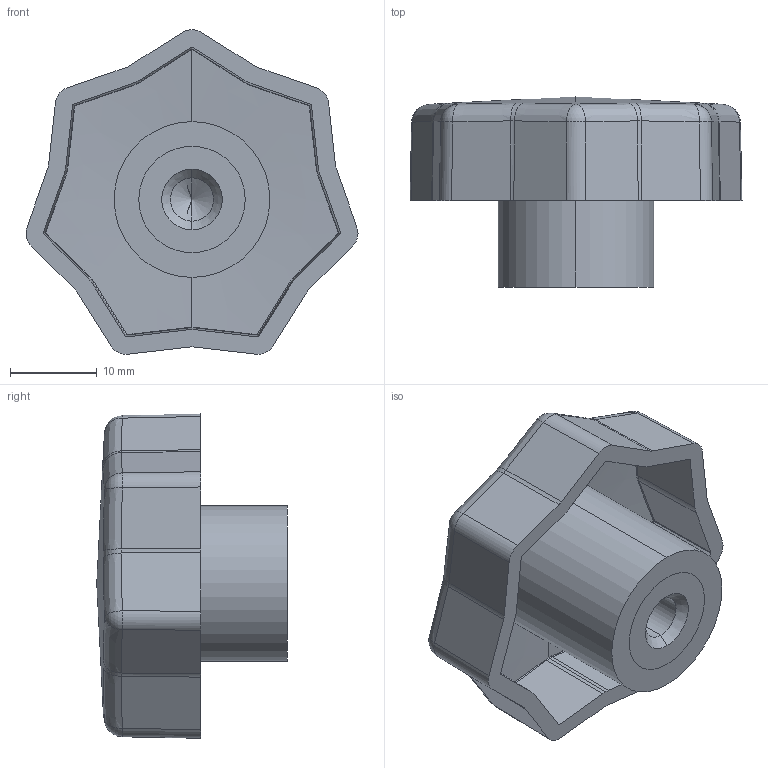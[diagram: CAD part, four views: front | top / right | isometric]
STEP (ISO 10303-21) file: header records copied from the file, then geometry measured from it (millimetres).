
FILE_DESCRIPTION (( 'STEP AP203' ), '1' );
FILE_NAME ('AP-1020-40-M6.STEP', '2015-11-23T10:09:01', ( '' ), ( '' ), 'SwSTEP 2.0', 'SolidWorks 2014', '' );
FILE_SCHEMA (( 'CONFIG_CONTROL_DESIGN' ));
Length unit declared in the file: millimetre
Products named in the file (1): AP-1020-40-M6
Bounding box: 38.35 x 22 x 37.49 mm (x, y, z)
Surface area: 7889.3 mm2 (no closed solid volume)
Topology: 0 solids, 3 shells, 162 faces, 372 edges, 220 vertices
Faces by surface type: cylinder 58, bspline 42, plane 40, sphere 14, cone 8
Entity records: 4919 total; most frequent: CARTESIAN_POINT 1585, ORIENTED_EDGE 734, DIRECTION 608, EDGE_CURVE 368, AXIS2_PLACEMENT_3D 243, VERTEX_POINT 220, EDGE_LOOP 171, ADVANCED_FACE 162
